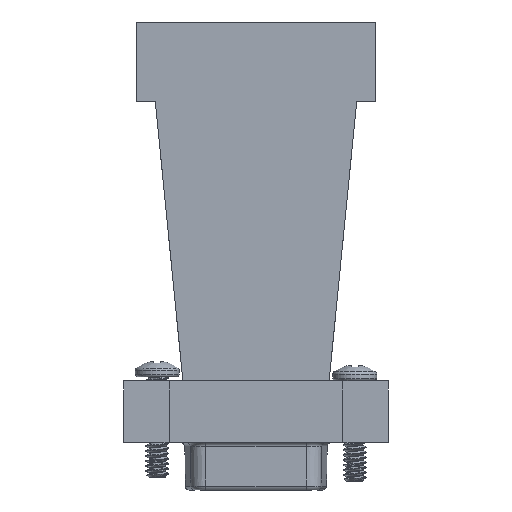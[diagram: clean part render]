
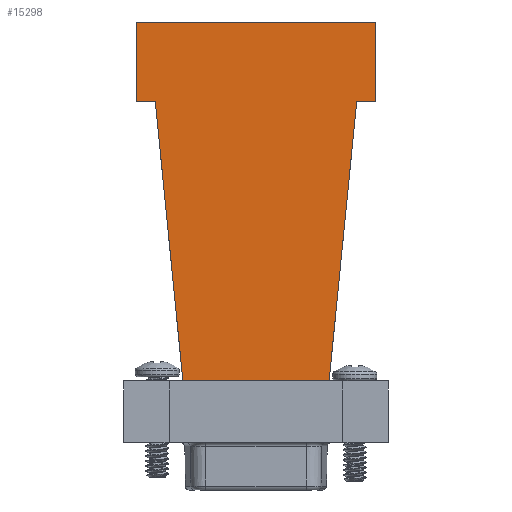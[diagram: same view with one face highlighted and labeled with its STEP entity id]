
A CAD part, front view. The second image highlights one B-rep face of the part: STEP entity #15298.
In plain terms, the highlighted planar face has unit normal (0, -1, 0).
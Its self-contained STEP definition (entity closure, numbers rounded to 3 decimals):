
#499=PLANE('',#16469);
#1329=FACE_OUTER_BOUND('',#2188,.T.);
#2188=EDGE_LOOP('',(#13336,#13337,#13338,#13339,#13340,#13341,#13342,#13343));
#3868=LINE('',#31564,#5436);
#4159=LINE('',#32660,#5727);
#4161=LINE('',#32664,#5729);
#4162=LINE('',#32666,#5730);
#4163=LINE('',#32668,#5731);
#4164=LINE('',#32669,#5732);
#4165=LINE('',#32671,#5733);
#4166=LINE('',#32672,#5734);
#5436=VECTOR('',#18980,10.);
#5727=VECTOR('',#19651,10.);
#5729=VECTOR('',#19655,10.);
#5730=VECTOR('',#19656,10.);
#5731=VECTOR('',#19657,10.);
#5732=VECTOR('',#19658,10.);
#5733=VECTOR('',#19659,10.);
#5734=VECTOR('',#19660,10.);
#7158=VERTEX_POINT('',#31561);
#7159=VERTEX_POINT('',#31563);
#7404=VERTEX_POINT('',#32657);
#7405=VERTEX_POINT('',#32659);
#7406=VERTEX_POINT('',#32663);
#7407=VERTEX_POINT('',#32665);
#7408=VERTEX_POINT('',#32667);
#7409=VERTEX_POINT('',#32670);
#9102=EDGE_CURVE('',#7158,#7159,#3868,.T.);
#9469=EDGE_CURVE('',#7405,#7404,#4159,.T.);
#9471=EDGE_CURVE('',#7406,#7158,#4161,.T.);
#9472=EDGE_CURVE('',#7407,#7406,#4162,.T.);
#9473=EDGE_CURVE('',#7408,#7407,#4163,.T.);
#9474=EDGE_CURVE('',#7405,#7408,#4164,.T.);
#9475=EDGE_CURVE('',#7404,#7409,#4165,.T.);
#9476=EDGE_CURVE('',#7409,#7159,#4166,.T.);
#13336=ORIENTED_EDGE('',*,*,#9102,.F.);
#13337=ORIENTED_EDGE('',*,*,#9471,.F.);
#13338=ORIENTED_EDGE('',*,*,#9472,.F.);
#13339=ORIENTED_EDGE('',*,*,#9473,.F.);
#13340=ORIENTED_EDGE('',*,*,#9474,.F.);
#13341=ORIENTED_EDGE('',*,*,#9469,.T.);
#13342=ORIENTED_EDGE('',*,*,#9475,.T.);
#13343=ORIENTED_EDGE('',*,*,#9476,.T.);
#15298=ADVANCED_FACE('',(#1329),#499,.T.);
#16469=AXIS2_PLACEMENT_3D('',#32662,#19653,#19654);
#18980=DIRECTION('',(-1.,0.,0.));
#19651=DIRECTION('',(0.,0.,-1.));
#19653=DIRECTION('center_axis',(0.,-1.,0.));
#19654=DIRECTION('ref_axis',(0.,0.,-1.));
#19655=DIRECTION('',(-0.098,0.,-0.995));
#19656=DIRECTION('',(-1.,0.,0.));
#19657=DIRECTION('',(0.,0.,-1.));
#19658=DIRECTION('',(1.,0.,0.));
#19659=DIRECTION('',(1.,0.,0.));
#19660=DIRECTION('',(0.098,0.,-0.995));
#31561=CARTESIAN_POINT('',(9.25,-8.,-45.4));
#31563=CARTESIAN_POINT('',(-9.25,-8.,-45.4));
#31564=CARTESIAN_POINT('',(4.188,-8.,-45.4));
#32657=CARTESIAN_POINT('',(-15.17,-8.,-10.));
#32659=CARTESIAN_POINT('',(-15.17,-8.,0.));
#32660=CARTESIAN_POINT('',(-15.17,-8.,0.));
#32662=CARTESIAN_POINT('Origin',(-8.375,-8.,-26.6));
#32663=CARTESIAN_POINT('',(12.74,-8.,-10.));
#32664=CARTESIAN_POINT('',(12.74,-8.,-10.));
#32665=CARTESIAN_POINT('',(15.17,-8.,-10.));
#32666=CARTESIAN_POINT('',(15.17,-8.,-10.));
#32667=CARTESIAN_POINT('',(15.17,-8.,0.));
#32668=CARTESIAN_POINT('',(15.17,-8.,0.));
#32669=CARTESIAN_POINT('',(15.17,-8.,0.));
#32670=CARTESIAN_POINT('',(-12.74,-8.,-10.));
#32671=CARTESIAN_POINT('',(-15.17,-8.,-10.));
#32672=CARTESIAN_POINT('',(-12.74,-8.,-10.));
